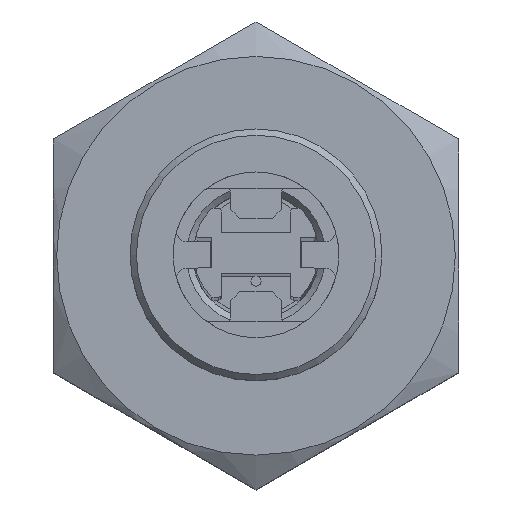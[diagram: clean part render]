
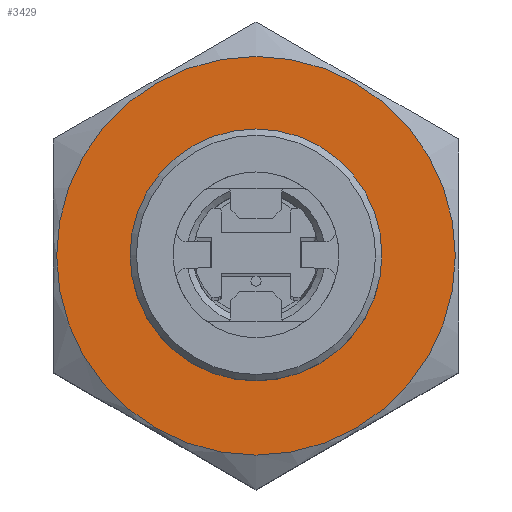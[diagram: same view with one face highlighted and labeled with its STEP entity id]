
A CAD part, top view. The second image highlights one B-rep face of the part: STEP entity #3429.
In plain terms, the highlighted planar face has unit normal (0, 0, 1) as drawn and (0, 0, -1) by its records, which use the part's own axes.
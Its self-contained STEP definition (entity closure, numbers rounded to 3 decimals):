
#174 = CARTESIAN_POINT ( 'NONE',  ( -8.775, 0., -28.6 ) ) ;
#842 = DIRECTION ( 'NONE',  ( 0., 0., 1. ) ) ;
#1079 = CARTESIAN_POINT ( 'NONE',  ( 15.75, 0., -28.6 ) ) ;
#1152 = AXIS2_PLACEMENT_3D ( 'NONE', #6435, #842, #6458 ) ;
#1478 = CIRCLE ( 'NONE', #4364, 8.775 ) ;
#1522 = EDGE_CURVE ( 'NONE', #3734, #3734, #3653, .T. ) ;
#1544 = VERTEX_POINT ( 'NONE', #174 ) ;
#1679 = CARTESIAN_POINT ( 'NONE',  ( 16., 27.713, -28.6 ) ) ;
#1759 = DIRECTION ( 'NONE',  ( -1., 0., 0. ) ) ;
#2051 = AXIS2_PLACEMENT_3D ( 'NONE', #1679, #3365, #1759 ) ;
#2164 = FACE_BOUND ( 'NONE', #4672, .T. ) ;
#2600 = EDGE_LOOP ( 'NONE', ( #6893 ) ) ;
#3365 = DIRECTION ( 'NONE',  ( 0., 0., -1. ) ) ;
#3429 = ADVANCED_FACE ( 'NONE', ( #2164, #4972 ), #4984, .T. ) ;
#3653 = CIRCLE ( 'NONE', #1152, 15.75 ) ;
#3734 = VERTEX_POINT ( 'NONE', #1079 ) ;
#3825 = DIRECTION ( 'NONE',  ( 0., 0., 1. ) ) ;
#4364 = AXIS2_PLACEMENT_3D ( 'NONE', #7090, #3825, #4439 ) ;
#4439 = DIRECTION ( 'NONE',  ( -1., 0., 0. ) ) ;
#4672 = EDGE_LOOP ( 'NONE', ( #4908 ) ) ;
#4908 = ORIENTED_EDGE ( 'NONE', *, *, #6602, .T. ) ;
#4972 = FACE_OUTER_BOUND ( 'NONE', #2600, .T. ) ;
#4984 = PLANE ( 'NONE',  #2051 ) ;
#6435 = CARTESIAN_POINT ( 'NONE',  ( 0., 0., -28.6 ) ) ;
#6458 = DIRECTION ( 'NONE',  ( 1., 0., 0. ) ) ;
#6602 = EDGE_CURVE ( 'NONE', #1544, #1544, #1478, .T. ) ;
#6893 = ORIENTED_EDGE ( 'NONE', *, *, #1522, .F. ) ;
#7090 = CARTESIAN_POINT ( 'NONE',  ( 0., 0., -28.6 ) ) ;
